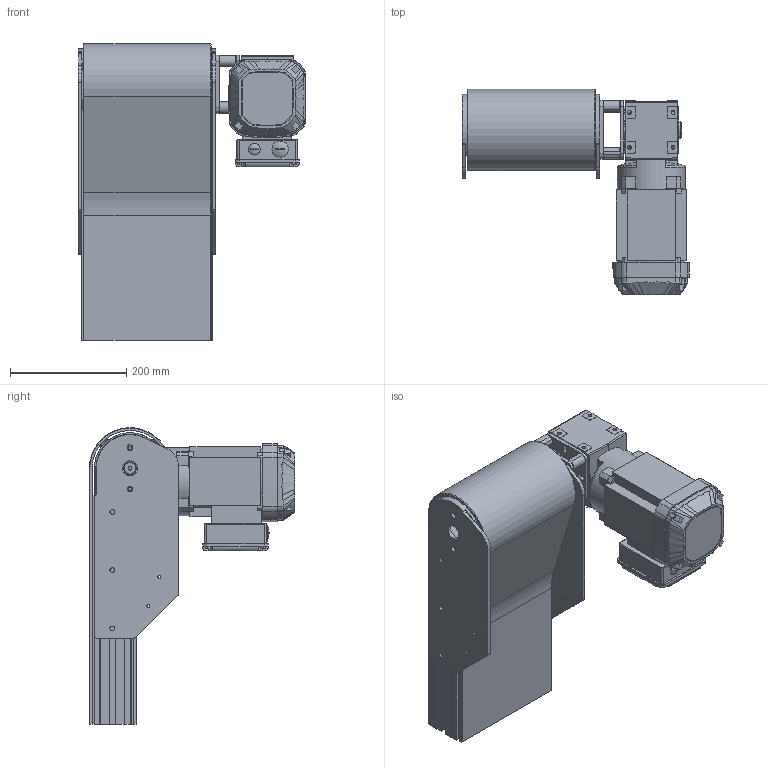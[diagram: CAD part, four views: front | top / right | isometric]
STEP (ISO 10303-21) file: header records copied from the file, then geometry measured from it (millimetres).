
FILE_DESCRIPTION(/* description */ (''),/* implementation_level */ '2;1');
FILE_NAME(/* name */ 'C:\Users\mikael.ljungberg\OneDrive - Carryline AB\Skrivbordet\Tillfalliga_filer\220-30-VLx-2xx.stp',/* time_stamp */ '2021-04-26T07:26:51+02:00',/* author */ ('ML'),/* organization */ (''),/* preprocessor_version */ 'ST-DEVELOPER v18.1',/* originating_system */ 'Autodesk Inventor 2020',/* authorisation */ '');
FILE_SCHEMA (('AUTOMOTIVE_DESIGN { 1 0 10303 214 3 1 1 }'));
Length unit declared in the file: millimetre
Products named in the file (12): 220-30-VLx-2xx; 220-30-HLx-1-XX; Serie 220 Drivände; 220-1000+220-2000-01; 900-3000R; 900-3000L; 900-2100R; 900-2100L; 900-3075; 900-3077; 900-3150; 900-4030
Assembly tree (14 placements, depth 4):
  220-30-VLx-2xx
    220-30-HLx-1-XX
      Serie 220 Drivände
        220-1000+220-2000-01
        900-3000R
        900-3000L
      900-2100R
      900-2100L
      900-3075
      900-3077
      900-3150  x4
    900-4030
Bounding box: 390.41 x 353.2 x 509.98 mm (x, y, z)
Volume: 12746460.1 mm3; surface area: 1085903.6 mm2
Topology: 12 solids, 14 shells, 1034 faces, 2912 edges, 1937 vertices
Faces by surface type: plane 531, cylinder 392, cone 59, bspline 33, torus 17, sphere 2
Full cylindrical faces by diameter (mm): 5 x8, 6 x9, 6.6 x8, 6.647 x4, 8 x6, 8.5 x8, 10 x8, 20 x1, 25 x1, 26 x3, 28 x1, 30 x2, 37 x1, 45 x2, 117 x1
Entity records: 35568 total; most frequent: CARTESIAN_POINT 8370, DIRECTION 5654, ORIENTED_EDGE 5642, EDGE_CURVE 2821, AXIS2_PLACEMENT_3D 1971, VERTEX_POINT 1880, LINE 1712, VECTOR 1712
